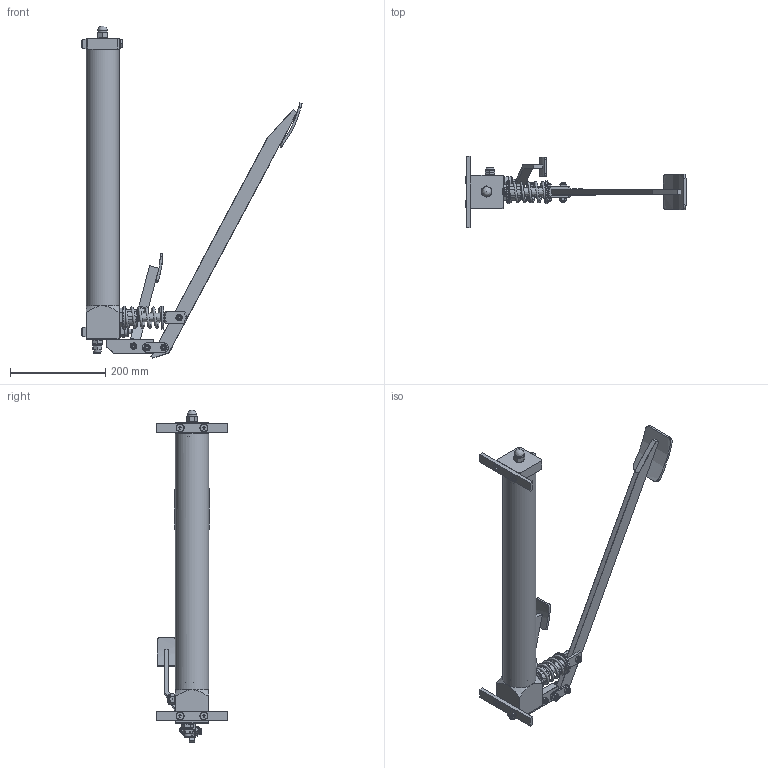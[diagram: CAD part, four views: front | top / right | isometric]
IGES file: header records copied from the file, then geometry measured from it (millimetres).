
Global section: file name: No Iges File Name specified; native system: Autodesk Inventor 2013; preprocessor: AutoDesk Inventor Iges Exporter R2013; author: christian.scardovi; date: 20240402.112843; units: millimetre
Bounding box: 462.85 x 150 x 698.41 mm (x, y, z)
Volume: 1371240.9 mm3; surface area: 454330 mm2
Topology: 3 solids, 3 shells, 1242 faces, 3211 edges, 2058 vertices
Faces by surface type: bspline 1242
